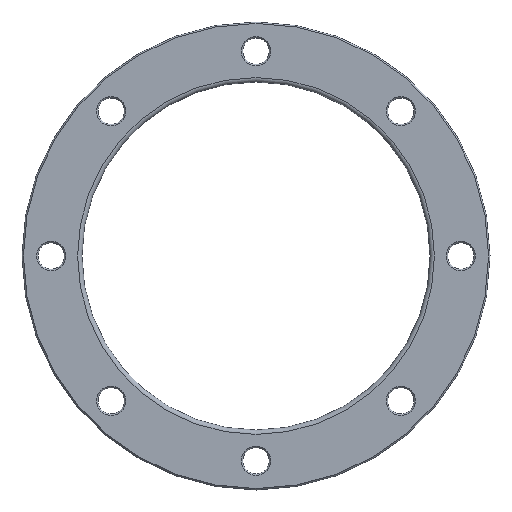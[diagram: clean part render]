
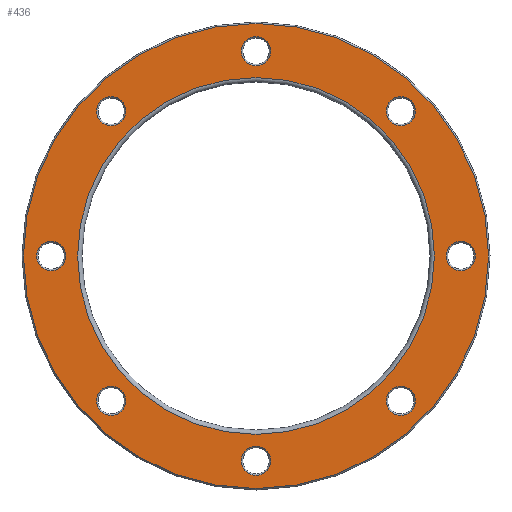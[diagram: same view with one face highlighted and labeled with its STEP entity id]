
A CAD part, front view. The second image highlights one B-rep face of the part: STEP entity #436.
In plain terms, the highlighted planar face has unit normal (0, -1, 0).
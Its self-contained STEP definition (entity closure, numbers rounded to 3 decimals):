
#23=PLANE('',#516);
#98=ORIENTED_EDGE('',*,*,#157,.T.);
#99=ORIENTED_EDGE('',*,*,#158,.T.);
#100=ORIENTED_EDGE('',*,*,#124,.T.);
#101=ORIENTED_EDGE('',*,*,#128,.T.);
#102=ORIENTED_EDGE('',*,*,#132,.T.);
#103=ORIENTED_EDGE('',*,*,#136,.T.);
#104=ORIENTED_EDGE('',*,*,#140,.T.);
#105=ORIENTED_EDGE('',*,*,#144,.T.);
#106=ORIENTED_EDGE('',*,*,#148,.T.);
#107=ORIENTED_EDGE('',*,*,#159,.T.);
#124=EDGE_CURVE('',#164,#164,#204,.T.);
#128=EDGE_CURVE('',#168,#168,#208,.T.);
#132=EDGE_CURVE('',#172,#172,#212,.T.);
#136=EDGE_CURVE('',#176,#176,#216,.T.);
#140=EDGE_CURVE('',#180,#180,#220,.T.);
#144=EDGE_CURVE('',#184,#184,#224,.T.);
#148=EDGE_CURVE('',#188,#188,#228,.T.);
#157=EDGE_CURVE('',#197,#197,#237,.F.);
#158=EDGE_CURVE('',#198,#198,#238,.T.);
#159=EDGE_CURVE('',#199,#199,#239,.T.);
#164=VERTEX_POINT('',#683);
#168=VERTEX_POINT('',#694);
#172=VERTEX_POINT('',#705);
#176=VERTEX_POINT('',#716);
#180=VERTEX_POINT('',#727);
#184=VERTEX_POINT('',#738);
#188=VERTEX_POINT('',#749);
#197=VERTEX_POINT('',#772);
#198=VERTEX_POINT('',#774);
#199=VERTEX_POINT('',#776);
#204=CIRCLE('',#461,10.);
#208=CIRCLE('',#468,10.);
#212=CIRCLE('',#475,10.);
#216=CIRCLE('',#482,10.);
#220=CIRCLE('',#489,10.);
#224=CIRCLE('',#496,10.);
#228=CIRCLE('',#503,10.);
#237=CIRCLE('',#517,159.);
#238=CIRCLE('',#518,122.);
#239=CIRCLE('',#519,10.);
#298=EDGE_LOOP('',(#98));
#299=EDGE_LOOP('',(#99));
#300=EDGE_LOOP('',(#100));
#301=EDGE_LOOP('',(#101));
#302=EDGE_LOOP('',(#102));
#303=EDGE_LOOP('',(#103));
#304=EDGE_LOOP('',(#104));
#305=EDGE_LOOP('',(#105));
#306=EDGE_LOOP('',(#106));
#307=EDGE_LOOP('',(#107));
#378=FACE_BOUND('',#298,.T.);
#379=FACE_BOUND('',#299,.T.);
#380=FACE_BOUND('',#300,.T.);
#381=FACE_BOUND('',#301,.T.);
#382=FACE_BOUND('',#302,.T.);
#383=FACE_BOUND('',#303,.T.);
#384=FACE_BOUND('',#304,.T.);
#385=FACE_BOUND('',#305,.T.);
#386=FACE_BOUND('',#306,.T.);
#387=FACE_BOUND('',#307,.T.);
#436=ADVANCED_FACE('',(#378,#379,#380,#381,#382,#383,#384,#385,#386,#387),
#23,.F.);
#461=AXIS2_PLACEMENT_3D('',#682,#539,#540);
#468=AXIS2_PLACEMENT_3D('',#693,#553,#554);
#475=AXIS2_PLACEMENT_3D('',#704,#567,#568);
#482=AXIS2_PLACEMENT_3D('',#715,#581,#582);
#489=AXIS2_PLACEMENT_3D('',#726,#595,#596);
#496=AXIS2_PLACEMENT_3D('',#737,#609,#610);
#503=AXIS2_PLACEMENT_3D('',#748,#623,#624);
#516=AXIS2_PLACEMENT_3D('',#770,#649,#650);
#517=AXIS2_PLACEMENT_3D('',#771,#651,#652);
#518=AXIS2_PLACEMENT_3D('',#773,#653,#654);
#519=AXIS2_PLACEMENT_3D('',#775,#655,#656);
#539=DIRECTION('',(0.,1.,0.));
#540=DIRECTION('',(0.707,0.,0.707));
#553=DIRECTION('',(0.,1.,0.));
#554=DIRECTION('',(0.,0.,1.));
#567=DIRECTION('',(0.,1.,0.));
#568=DIRECTION('',(-0.707,0.,0.707));
#581=DIRECTION('',(0.,1.,0.));
#582=DIRECTION('',(-1.,0.,0.));
#595=DIRECTION('',(0.,1.,0.));
#596=DIRECTION('',(-0.707,0.,-0.707));
#609=DIRECTION('',(0.,1.,0.));
#610=DIRECTION('',(0.,0.,-1.));
#623=DIRECTION('',(0.,1.,0.));
#624=DIRECTION('',(0.707,0.,-0.707));
#649=DIRECTION('',(0.,1.,0.));
#650=DIRECTION('',(0.,0.,1.));
#651=DIRECTION('',(0.,1.,0.));
#652=DIRECTION('',(0.,0.,1.));
#653=DIRECTION('',(0.,1.,0.));
#654=DIRECTION('',(0.,0.,1.));
#655=DIRECTION('',(0.,1.,0.));
#656=DIRECTION('',(1.,0.,0.));
#682=CARTESIAN_POINT('',(-98.995,0.,98.995));
#683=CARTESIAN_POINT('',(-91.924,0.,106.066));
#693=CARTESIAN_POINT('',(-140.,0.,0.));
#694=CARTESIAN_POINT('',(-140.,0.,10.));
#704=CARTESIAN_POINT('',(-98.995,0.,-98.995));
#705=CARTESIAN_POINT('',(-106.066,0.,-91.924));
#715=CARTESIAN_POINT('',(0.,0.,-140.));
#716=CARTESIAN_POINT('',(-10.,0.,-140.));
#726=CARTESIAN_POINT('',(98.995,0.,-98.995));
#727=CARTESIAN_POINT('',(91.924,0.,-106.066));
#737=CARTESIAN_POINT('',(140.,0.,0.));
#738=CARTESIAN_POINT('',(140.,0.,-10.));
#748=CARTESIAN_POINT('',(98.995,0.,98.995));
#749=CARTESIAN_POINT('',(106.066,0.,91.924));
#770=CARTESIAN_POINT('',(0.,0.,0.));
#771=CARTESIAN_POINT('',(0.,0.,0.));
#772=CARTESIAN_POINT('',(0.,0.,159.));
#773=CARTESIAN_POINT('',(0.,0.,0.));
#774=CARTESIAN_POINT('',(0.,0.,122.));
#775=CARTESIAN_POINT('',(0.,0.,140.));
#776=CARTESIAN_POINT('',(10.,0.,140.));
